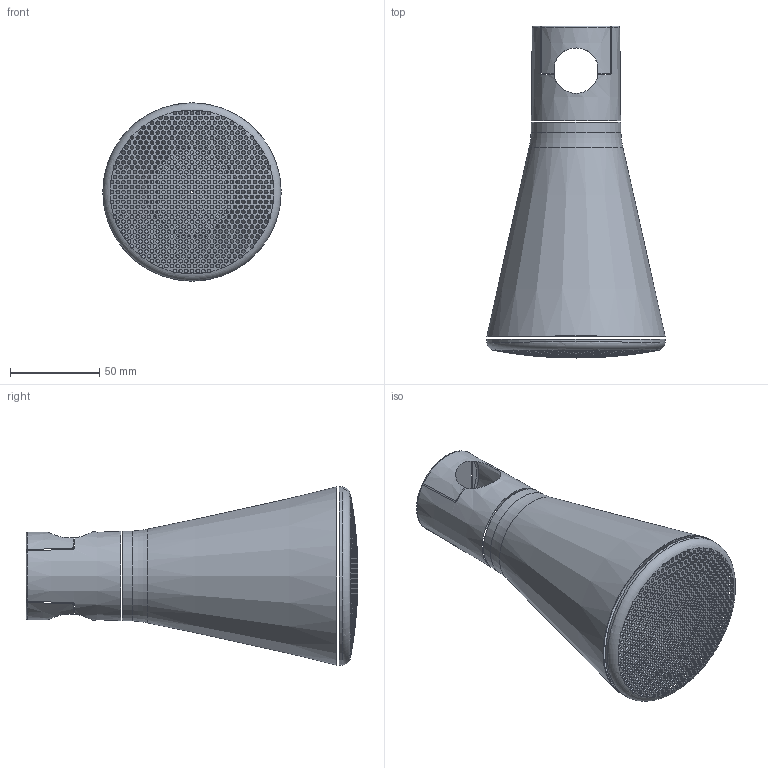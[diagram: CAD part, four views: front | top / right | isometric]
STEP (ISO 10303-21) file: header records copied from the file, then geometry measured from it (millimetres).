
FILE_DESCRIPTION(/* description */ (''),/* implementation_level */ '2;1');
FILE_NAME(/* name */ 'S:\UFFICIO TECNICO 2019\PRODOTTI ROTALIANA\SOUVLAKI\CONFIGURATORE\FILES X CONFIGURATORE\ipt INVENTOR\ASVSK_speaker.stp',/* time_stamp */ '2024-03-13T10:27:33+01:00',/* author */ ('mtesta'),/* organization */ (''),/* preprocessor_version */ 'ST-DEVELOPER v18.1',/* originating_system */ 'Autodesk Inventor 2021',/* authorisation */ '');
FILE_SCHEMA (('AUTOMOTIVE_DESIGN { 1 0 10303 214 3 1 1 }'));
Length unit declared in the file: millimetre
Products named in the file (1): SPEAKER
Bounding box: 99.98 x 186 x 99.98 mm (x, y, z)
Surface area: 44075.4 mm2 (no closed solid volume)
Topology: 0 solids, 4 shells, 19 faces, 913 edges, 872 vertices
Faces by surface type: torus 9, cone 6, plane 3, sphere 1
Entity records: 32498 total; most frequent: CARTESIAN_POINT 26901, ORIENTED_EDGE 974, EDGE_CURVE 913, VERTEX_POINT 872, B_SPLINE_CURVE_WITH_KNOTS 807, EDGE_LOOP 741, FACE_BOUND 722, DIRECTION 220
